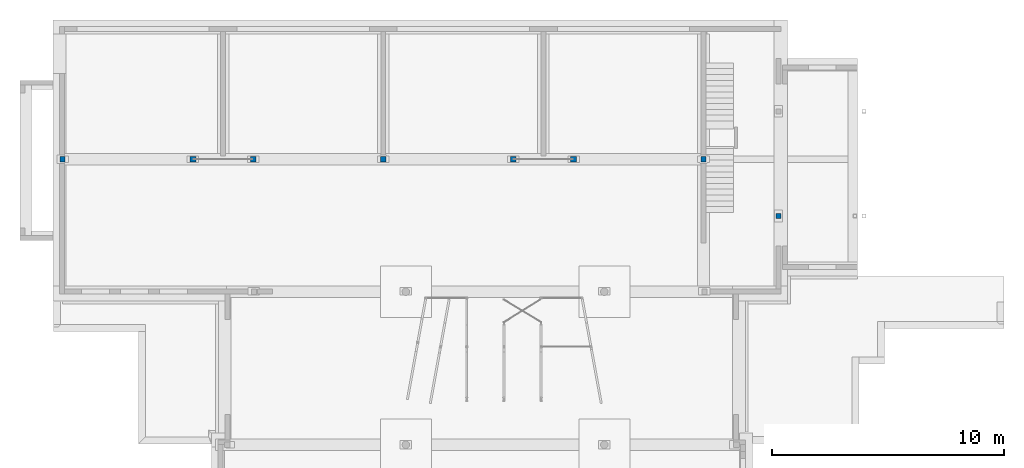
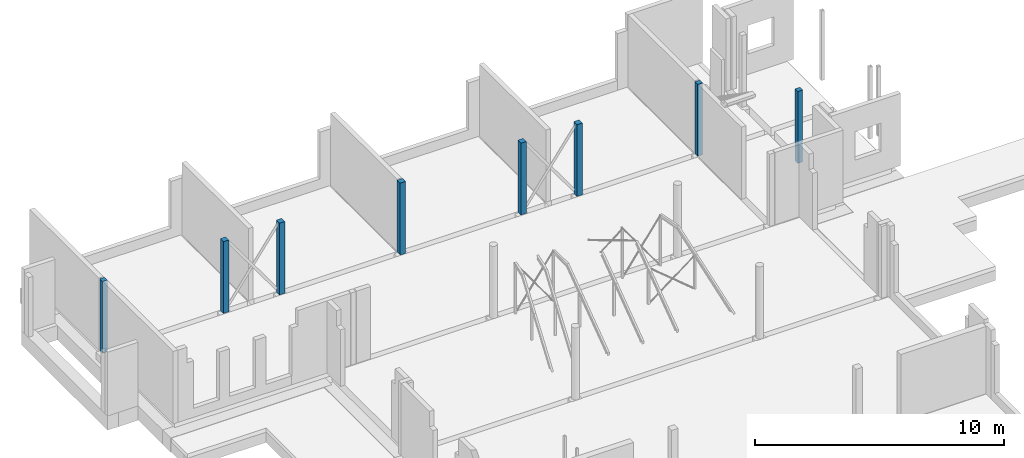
# One storey, part 7 of 17: 8 columns.
"""IFC2X3 building model written with IfcOpenShell, lengths in millimetres."""

from ifc_helpers import new_model, entity, si_unit, converted_unit, derived_unit, direction, frame, frame_2d, origin, origin_2d_with_axis, place, context, subcontext, project, spatial, polyline, rectangle, outline, extrude, source, transform, mapped, material, material_list, type_object, type_shapes, element, save


model = new_model("IFC2X3")

# Units and contexts
model_context = context("Model", 3, precision=0.01, world=origin(), true_north=direction((6.123031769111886e-17, 1.0)))
body_context = subcontext(model_context, "Body", "Model", "MODEL_VIEW")
ifc_project = project(units=[si_unit("LENGTHUNIT", "METRE", prefix="MILLI"), si_unit("AREAUNIT", "SQUARE_METRE", prefix="MILLI"), si_unit("VOLUMEUNIT", "CUBIC_METRE"), converted_unit("PLANEANGLEUNIT", "DEGREE", entity("IfcPlaneAngleMeasure", 0.017453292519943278), si_unit("PLANEANGLEUNIT", "RADIAN"), dimensions=[0, 0, 0, 0, 0, 0, 0]), si_unit("MASSUNIT", "GRAM", prefix="KILO"), derived_unit("MASSDENSITYUNIT", [(si_unit("MASSUNIT", "GRAM", prefix="KILO"), 1), (si_unit("LENGTHUNIT", "METRE"), -3)]), derived_unit("IONCONCENTRATIONUNIT", [(si_unit("MASSUNIT", "GRAM", prefix="KILO"), 1), (si_unit("LENGTHUNIT", "METRE"), -3)]), derived_unit("MOMENTOFINERTIAUNIT", [(si_unit("LENGTHUNIT", "METRE"), 4)]), si_unit("TIMEUNIT", "SECOND"), si_unit("FREQUENCYUNIT", "HERTZ"), si_unit("THERMODYNAMICTEMPERATUREUNIT", "DEGREE_CELSIUS"), derived_unit("THERMALTRANSMITTANCEUNIT", [(si_unit("MASSUNIT", "GRAM", prefix="KILO"), 1), (si_unit("THERMODYNAMICTEMPERATUREUNIT", "KELVIN"), -1), (si_unit("TIMEUNIT", "SECOND"), -3)]), derived_unit("THERMALCONDUCTANCEUNIT", [(si_unit("MASSUNIT", "GRAM", prefix="KILO"), 1), (si_unit("THERMODYNAMICTEMPERATUREUNIT", "KELVIN"), -1), (si_unit("TIMEUNIT", "SECOND"), -3), (si_unit("LENGTHUNIT", "METRE"), 1)]), derived_unit("VOLUMETRICFLOWRATEUNIT", [(si_unit("LENGTHUNIT", "METRE", prefix="DECI"), 3), (si_unit("TIMEUNIT", "SECOND"), -1)]), derived_unit("MASSFLOWRATEUNIT", [(si_unit("MASSUNIT", "GRAM", prefix="KILO"), 1), (si_unit("TIMEUNIT", "SECOND"), -1)]), derived_unit("ROTATIONALFREQUENCYUNIT", [(si_unit("TIMEUNIT", "SECOND"), -1)]), si_unit("ELECTRICCURRENTUNIT", "AMPERE"), si_unit("ELECTRICVOLTAGEUNIT", "VOLT"), si_unit("POWERUNIT", "WATT"), si_unit("FORCEUNIT", "NEWTON", prefix="KILO"), si_unit("ILLUMINANCEUNIT", "LUX"), si_unit("LUMINOUSFLUXUNIT", "LUMEN"), si_unit("LUMINOUSINTENSITYUNIT", "CANDELA"), si_unit("ENERGYUNIT", "JOULE"), derived_unit("USERDEFINED", [(si_unit("MASSUNIT", "GRAM", prefix="KILO"), -1), (si_unit("LENGTHUNIT", "METRE"), -2), (si_unit("TIMEUNIT", "SECOND"), 3), (si_unit("LUMINOUSFLUXUNIT", "LUMEN"), 1)]), derived_unit("USERDEFINED", [(si_unit("MASSUNIT", "GRAM", prefix="KILO"), 1), (si_unit("TIMEUNIT", "SECOND"), -3), (si_unit("LENGTHUNIT", "METRE"), 3), (si_unit("ELECTRICCURRENTUNIT", "AMPERE"), -2)]), derived_unit("SOUNDPOWERUNIT", [(si_unit("MASSUNIT", "GRAM", prefix="KILO"), 1), (si_unit("TIMEUNIT", "SECOND"), -3), (si_unit("LENGTHUNIT", "METRE"), 2)]), derived_unit("SOUNDPRESSUREUNIT", [(si_unit("MASSUNIT", "GRAM", prefix="KILO"), 1), (si_unit("LENGTHUNIT", "METRE"), -1), (si_unit("TIMEUNIT", "SECOND"), -2)]), derived_unit("LINEARVELOCITYUNIT", [(si_unit("LENGTHUNIT", "METRE"), 1), (si_unit("TIMEUNIT", "SECOND"), -1)]), si_unit("PRESSUREUNIT", "PASCAL"), derived_unit("USERDEFINED", [(si_unit("MASSUNIT", "GRAM", prefix="KILO"), 1), (si_unit("LENGTHUNIT", "METRE"), -2), (si_unit("TIMEUNIT", "SECOND"), -2)]), derived_unit("LINEARFORCEUNIT", [(si_unit("MASSUNIT", "GRAM", prefix="KILO"), 1), (si_unit("TIMEUNIT", "SECOND"), -2)]), derived_unit("PLANARFORCEUNIT", [(si_unit("MASSUNIT", "GRAM", prefix="KILO"), 1), (si_unit("LENGTHUNIT", "METRE"), -1), (si_unit("TIMEUNIT", "SECOND"), -2)]), derived_unit("SPECIFICHEATCAPACITYUNIT", [(si_unit("THERMODYNAMICTEMPERATUREUNIT", "KELVIN"), -1), (si_unit("LENGTHUNIT", "METRE"), 2), (si_unit("TIMEUNIT", "SECOND"), -2)]), derived_unit("HEATFLUXDENSITYUNIT", [(si_unit("MASSUNIT", "GRAM", prefix="KILO"), 1), (si_unit("TIMEUNIT", "SECOND"), -3)]), derived_unit("HEATINGVALUEUNIT", [(si_unit("LENGTHUNIT", "METRE"), 2), (si_unit("TIMEUNIT", "SECOND"), -2)]), derived_unit("VAPORPERMEABILITYUNIT", [(si_unit("LENGTHUNIT", "METRE"), -1), (si_unit("TIMEUNIT", "SECOND"), 1)]), derived_unit("DYNAMICVISCOSITYUNIT", [(si_unit("MASSUNIT", "GRAM", prefix="KILO"), 1), (si_unit("TIMEUNIT", "SECOND"), -1), (si_unit("LENGTHUNIT", "METRE"), -1)]), derived_unit("THERMALEXPANSIONCOEFFICIENTUNIT", [(si_unit("THERMODYNAMICTEMPERATUREUNIT", "KELVIN"), -1)]), derived_unit("MODULUSOFELASTICITYUNIT", [(si_unit("MASSUNIT", "GRAM", prefix="KILO"), 1), (si_unit("LENGTHUNIT", "METRE"), -1), (si_unit("TIMEUNIT", "SECOND"), -2)]), derived_unit("ISOTHERMALMOISTURECAPACITYUNIT", [(si_unit("MASSUNIT", "GRAM", prefix="KILO"), -1), (si_unit("LENGTHUNIT", "METRE"), 3)]), derived_unit("MOISTUREDIFFUSIVITYUNIT", [(si_unit("TIMEUNIT", "SECOND"), -1), (si_unit("LENGTHUNIT", "METRE"), 2)]), derived_unit("MASSPERLENGTHUNIT", [(si_unit("MASSUNIT", "GRAM", prefix="KILO"), 1), (si_unit("LENGTHUNIT", "METRE"), -1)]), derived_unit("THERMALRESISTANCEUNIT", [(si_unit("MASSUNIT", "GRAM", prefix="KILO"), -1), (si_unit("TIMEUNIT", "SECOND"), 3), (si_unit("THERMODYNAMICTEMPERATUREUNIT", "KELVIN"), 1)]), derived_unit("ACCELERATIONUNIT", [(si_unit("LENGTHUNIT", "METRE"), 1), (si_unit("TIMEUNIT", "SECOND"), -2)]), derived_unit("ANGULARVELOCITYUNIT", [(si_unit("TIMEUNIT", "SECOND"), -1), (si_unit("PLANEANGLEUNIT", "RADIAN"), 1)]), derived_unit("LINEARSTIFFNESSUNIT", [(si_unit("MASSUNIT", "GRAM", prefix="KILO"), 1), (si_unit("TIMEUNIT", "SECOND"), -2)]), derived_unit("WARPINGCONSTANTUNIT", [(si_unit("LENGTHUNIT", "METRE"), 6)]), derived_unit("LINEARMOMENTUNIT", [(si_unit("MASSUNIT", "GRAM", prefix="KILO"), 1), (si_unit("LENGTHUNIT", "METRE"), 1), (si_unit("TIMEUNIT", "SECOND"), -2)]), derived_unit("TORQUEUNIT", [(si_unit("MASSUNIT", "GRAM", prefix="KILO"), 1), (si_unit("LENGTHUNIT", "METRE"), 2), (si_unit("TIMEUNIT", "SECOND"), -2)])], contexts=[model_context])

# Site, building, storey
site_placement = place(None, origin())
site = spatial("IfcSite", under=ifc_project, at=site_placement, Name="Default", CompositionType="ELEMENT")
building_placement = place(site_placement, origin())
building = spatial("IfcBuilding", under=site, at=building_placement, CompositionType="ELEMENT")
storey_placement = place(building_placement, frame((0.0, 0.0, -70.0)))
storey = spatial("IfcBuildingStorey", under=building, at=storey_placement, Name="F1 begg (bk ruwe vloer)", CompositionType="ELEMENT", Elevation=-69.99999999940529)

# Columns
ifc_material_1 = material(Name="Metal - Steel - S275 J0H (standaard-kokers/buizen)")
ifc_material_2 = material(Name="Concrete - Cast-in-Place - C30/37")
ifc_material_list_1 = material_list([ifc_material_1, ifc_material_2])
column_type_1 = type_object("IfcColumnType", Name="btk_staal - Koker + beton:K250x250x8.0", PredefinedType="COLUMN", material=ifc_material_list_1)
shared_shape_1 = source(origin(), body_context, "Body", "SweptSolid", [
    extrude(outline(polyline([(-125.0, -125.0), (125.0, -125.0), (125.0, 125.0), (-125.0, 125.0), (-125.0, -125.0)]), holes=[polyline([(-117.0, -117.0), (-117.0, 117.0), (117.0, 117.0), (117.0, -117.0), (-117.0, -117.0)])]), frame((5525.000781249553, 37644.573205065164, -70.0), z_axis=(0.0, 0.0, 1.0), x_axis=(-1.0, 0.0, 0.0)), (0.0, 0.0, 1.0), 3524.9999999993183),
    extrude(rectangle(XDim=233.99999999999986, YDim=233.99999999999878, at=frame_2d((5.400124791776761e-13, 0.0), x_axis=(1.0, 0.0))), frame((5525.000781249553, 37644.573205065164, -70.0), z_axis=(0.0, 0.0, 1.0), x_axis=(-1.0, 0.0, 0.0)), (0.0, 0.0, 1.0), 3524.9999999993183),
])
type_shapes(column_type_1, [shared_shape_1])
column_1_placement = place(storey_placement, frame((0.0, 0.0, 70.0)))
element("IfcColumn", 1, at=column_1_placement, inside=storey, type_object=column_type_1, material=ifc_material_list_1, Name="btk_staal - Koker + beton:K250x250x8.0", ObjectType="btk_staal - Koker + beton:K250x250x8.0", context=body_context, shape_type="MappedRepresentation", body=[
    mapped(shared_shape_1, transform((0.0, 0.0, 0.0), scale=1.0)),
])
ifc_material_list_2 = material_list([ifc_material_2, ifc_material_1])
column_type_2 = type_object("IfcColumnType", Name="btk_staal - Koker + beton:K220x220x8", PredefinedType="COLUMN", material=ifc_material_list_2)
shared_shape_2 = source(origin(), body_context, "Body", "SweptSolid", [
    extrude(rectangle(XDim=203.9999999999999, YDim=204.00000000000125, at=frame_2d((-1.4210854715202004e-14, 2.1671553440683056e-12), x_axis=(1.0, 0.0))), frame((-89.0, 37644.573205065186, -70.0), z_axis=(0.0, 0.0, 1.0), x_axis=(-1.0, 0.0, 0.0)), (0.0, 0.0, 1.0), 3524.9999999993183),
    extrude(outline(polyline([(-110.0, -110.0), (110.0, -110.0), (110.0, 110.0), (-110.0, 110.0), (-110.0, -110.0)]), holes=[polyline([(-102.0, -102.0), (-102.0, 102.0), (102.0, 102.0), (102.0, -102.0), (-102.0, -102.0)])]), frame((-89.0, 37644.573205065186, -70.0), z_axis=(0.0, 0.0, 1.0), x_axis=(-1.0, 0.0, 0.0)), (0.0, 0.0, 1.0), 3524.9999999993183),
])
type_shapes(column_type_2, [shared_shape_2])
column_2_placement = place(storey_placement, frame((0.0, 0.0, 70.0)))
element("IfcColumn", 2, at=column_2_placement, inside=storey, type_object=column_type_2, material=ifc_material_list_2, Name="btk_staal - Koker + beton:K220x220x8", ObjectType="btk_staal - Koker + beton:K220x220x8", context=body_context, shape_type="MappedRepresentation", body=[
    mapped(shared_shape_2, transform((0.0, 0.0, 0.0), scale=1.0)),
])
column_type_3 = type_object("IfcColumnType", Name="btk_staal - Koker + beton:K250x250x8.0", PredefinedType="COLUMN", material=ifc_material_list_1)
shared_shape_3 = source(origin(), body_context, "Body", "SweptSolid", [
    extrude(outline(polyline([(-125.0, -125.0), (125.0, -125.0), (125.0, 125.0), (-125.0, 125.0), (-125.0, -125.0)]), holes=[polyline([(-117.0, -117.0), (-117.0, 117.0), (117.0, 117.0), (117.0, -117.0), (-117.0, -117.0)])]), frame((8124.985770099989, 37644.573205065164, -70.0), z_axis=(0.0, 0.0, 1.0), x_axis=(-1.0, 0.0, 0.0)), (0.0, 0.0, 1.0), 3524.9999999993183),
    extrude(rectangle(XDim=233.99999999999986, YDim=233.99999999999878, at=frame_2d((5.400124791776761e-13, 0.0), x_axis=(1.0, 0.0))), frame((8124.985770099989, 37644.57320506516, -70.0), z_axis=(0.0, 0.0, 1.0), x_axis=(-1.0, 0.0, 0.0)), (0.0, 0.0, 1.0), 3524.9999999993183),
])
type_shapes(column_type_3, [shared_shape_3])
column_3_placement = place(storey_placement, frame((0.0, 0.0, 70.0)))
element("IfcColumn", 3, at=column_3_placement, inside=storey, type_object=column_type_3, material=ifc_material_list_1, Name="btk_staal - Koker + beton:K250x250x8.0", ObjectType="btk_staal - Koker + beton:K250x250x8.0", context=body_context, shape_type="MappedRepresentation", body=[
    mapped(shared_shape_3, transform((0.0, 0.0, 0.0), scale=1.0)),
])
column_type_4 = type_object("IfcColumnType", Name="btk_staal - Koker + beton:K250x250x8.0", PredefinedType="COLUMN", material=ifc_material_list_2)
shared_shape_4 = source(origin(), body_context, "Body", "SweptSolid", [
    extrude(rectangle(XDim=234.00000000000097, YDim=233.99999999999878, at=frame_2d((1.0871303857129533e-12, 0.0), x_axis=(1.0, 0.0))), frame((13725.000781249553, 37644.573205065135, -70.0), z_axis=(0.0, 0.0, 1.0), x_axis=(-1.0, 0.0, 0.0)), (0.0, 0.0, 1.0), 3524.9999999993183),
    extrude(outline(polyline([(-125.0, -125.0), (125.0, -125.0), (125.0, 125.0), (-125.0, 125.0), (-125.0, -125.0)]), holes=[polyline([(-117.0, -117.0), (-117.0, 117.0), (117.0, 117.0), (117.0, -117.0), (-117.0, -117.0)])]), frame((13725.000781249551, 37644.57320506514, -70.0), z_axis=(0.0, 0.0, 1.0), x_axis=(-1.0, 0.0, 0.0)), (0.0, 0.0, 1.0), 3524.9999999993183),
])
type_shapes(column_type_4, [shared_shape_4])
column_4_placement = place(storey_placement, frame((0.0, 0.0, 70.0)))
element("IfcColumn", 4, at=column_4_placement, inside=storey, type_object=column_type_4, material=ifc_material_list_2, Name="btk_staal - Koker + beton:K250x250x8.0", ObjectType="btk_staal - Koker + beton:K250x250x8.0", context=body_context, shape_type="MappedRepresentation", body=[
    mapped(shared_shape_4, transform((0.0, 0.0, 0.0), scale=1.0)),
])
column_type_5 = type_object("IfcColumnType", Name="btk_staal - Koker + beton:K250x250x8.0", PredefinedType="COLUMN", material=ifc_material_list_2)
shared_shape_5 = source(origin(), body_context, "Body", "SweptSolid", [
    extrude(rectangle(XDim=234.00000000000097, YDim=233.99999999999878, at=frame_2d((-1.0871303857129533e-12, 0.0), x_axis=(1.0, 0.0))), frame((19324.984654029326, 37644.57320506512, -70.0), z_axis=(0.0, 0.0, 1.0), x_axis=(-1.0, 0.0, 0.0)), (0.0, 0.0, 1.0), 3524.9999999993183),
    extrude(outline(polyline([(-125.0, -125.0), (125.0, -125.0), (125.0, 125.0), (-125.0, 125.0), (-125.0, -125.0)]), holes=[polyline([(-117.0, -117.0), (-117.0, 117.0), (117.0, 117.0), (117.0, -117.0), (-117.0, -117.0)])]), frame((19324.984654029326, 37644.57320506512, -70.0), z_axis=(0.0, 0.0, 1.0), x_axis=(-1.0, 0.0, 0.0)), (0.0, 0.0, 1.0), 3524.9999999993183),
])
type_shapes(column_type_5, [shared_shape_5])
column_5_placement = place(storey_placement, frame((0.0, 0.0, 70.0)))
element("IfcColumn", 5, at=column_5_placement, inside=storey, type_object=column_type_5, material=ifc_material_list_2, Name="btk_staal - Koker + beton:K250x250x8.0", ObjectType="btk_staal - Koker + beton:K250x250x8.0", context=body_context, shape_type="MappedRepresentation", body=[
    mapped(shared_shape_5, transform((0.0, 0.0, 0.0), scale=1.0)),
])
column_type_6 = type_object("IfcColumnType", Name="btk_staal - Koker + beton:K250x250x8.0", PredefinedType="COLUMN", material=ifc_material_list_2)
shared_shape_6 = source(origin(), body_context, "Body", "SweptSolid", [
    extrude(rectangle(XDim=233.99999999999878, YDim=233.99999999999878, at=origin_2d_with_axis()), frame((21924.984654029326, 37644.573205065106, -70.0), z_axis=(0.0, 0.0, 1.0), x_axis=(-1.0, 0.0, 0.0)), (0.0, 0.0, 1.0), 3524.9999999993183),
    extrude(outline(polyline([(-125.0, -125.0), (125.0, -125.0), (125.0, 125.0), (-125.0, 125.0), (-125.0, -125.0)]), holes=[polyline([(-117.0, -117.0), (-117.0, 117.0), (117.0, 117.0), (117.0, -117.0), (-117.0, -117.0)])]), frame((21924.984654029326, 37644.573205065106, -70.0), z_axis=(0.0, 0.0, 1.0), x_axis=(-1.0, 0.0, 0.0)), (0.0, 0.0, 1.0), 3524.9999999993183),
])
type_shapes(column_type_6, [shared_shape_6])
column_6_placement = place(storey_placement, frame((0.0, 0.0, 70.0)))
element("IfcColumn", 6, at=column_6_placement, inside=storey, type_object=column_type_6, material=ifc_material_list_2, Name="btk_staal - Koker + beton:K250x250x8.0", ObjectType="btk_staal - Koker + beton:K250x250x8.0", context=body_context, shape_type="MappedRepresentation", body=[
    mapped(shared_shape_6, transform((0.0, 0.0, 0.0), scale=1.0)),
])
column_type_7 = type_object("IfcColumnType", Name="btk_staal - Koker + beton:K220x220x8", PredefinedType="COLUMN", material=ifc_material_list_2)
shared_shape_7 = source(origin(), body_context, "Body", "SweptSolid", [
    extrude(rectangle(XDim=204.00000000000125, YDim=204.00000000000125, at=frame_2d((2.1671553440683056e-12, -2.1671553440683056e-12), x_axis=(1.0, 0.0))), frame((27521.979520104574, 37644.573205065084, -70.0), z_axis=(0.0, 0.0, 1.0), x_axis=(-1.0, 0.0, 0.0)), (0.0, 0.0, 1.0), 3524.9999999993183),
    extrude(outline(polyline([(-110.0, -110.0), (110.0, -110.0), (110.0, 110.0), (-110.0, 110.0), (-110.0, -110.0)]), holes=[polyline([(-102.0, -102.0), (-102.0, 102.0), (102.0, 102.0), (102.0, -102.0), (-102.0, -102.0)])]), frame((27521.979520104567, 37644.57320506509, -70.0), z_axis=(0.0, 0.0, 1.0), x_axis=(-1.0, 0.0, 0.0)), (0.0, 0.0, 1.0), 3524.9999999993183),
])
type_shapes(column_type_7, [shared_shape_7])
column_7_placement = place(storey_placement, frame((0.0, 0.0, 70.0)))
element("IfcColumn", 7, at=column_7_placement, inside=storey, type_object=column_type_7, material=ifc_material_list_2, Name="btk_staal - Koker + beton:K220x220x8", ObjectType="btk_staal - Koker + beton:K220x220x8", context=body_context, shape_type="MappedRepresentation", body=[
    mapped(shared_shape_7, transform((0.0, 0.0, 0.0), scale=1.0)),
])
column_type_8 = type_object("IfcColumnType", Name="btk_staal - Koker + beton:K220x220x8", PredefinedType="COLUMN", material=ifc_material_list_2)
shared_shape_8 = source(origin(), body_context, "Body", "SweptSolid", [
    extrude(rectangle(XDim=204.00000000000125, YDim=204.00000000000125, at=frame_2d((2.1671553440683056e-12, 2.1671553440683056e-12), x_axis=(1.0, 0.0))), frame((30756.977194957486, 35197.84751726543, -70.0), z_axis=(0.0, 0.0, 1.0), x_axis=(-1.0, 0.0, 0.0)), (0.0, 0.0, 1.0), 3524.9999999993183),
    extrude(outline(polyline([(-110.0, -110.0), (110.0, -110.0), (110.0, 110.0), (-110.0, 110.0), (-110.0, -110.0)]), holes=[polyline([(-102.0, -102.0), (-102.0, 102.0), (102.0, 102.0), (102.0, -102.0), (-102.0, -102.0)])]), frame((30756.977194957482, 35197.84751726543, -70.0), z_axis=(0.0, 0.0, 1.0), x_axis=(-1.0, 0.0, 0.0)), (0.0, 0.0, 1.0), 3524.9999999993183),
])
type_shapes(column_type_8, [shared_shape_8])
column_8_placement = place(storey_placement, frame((0.0, 0.0, 70.0)))
element("IfcColumn", 8, at=column_8_placement, inside=storey, type_object=column_type_8, material=ifc_material_list_2, Name="btk_staal - Koker + beton:K220x220x8", ObjectType="btk_staal - Koker + beton:K220x220x8", context=body_context, shape_type="MappedRepresentation", body=[
    mapped(shared_shape_8, transform((0.0, 0.0, 0.0), scale=1.0)),
])

save(model, "model.ifc")
